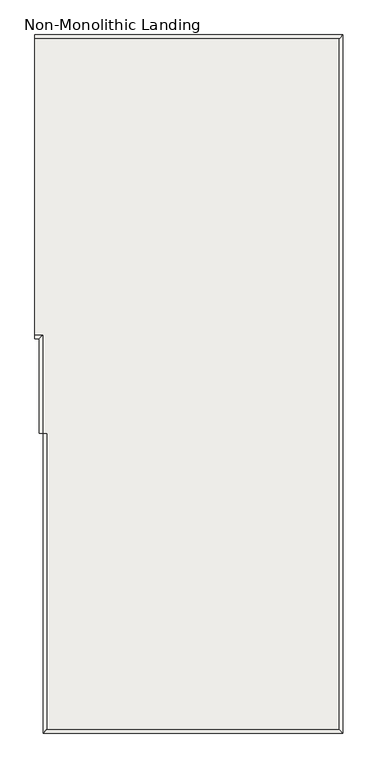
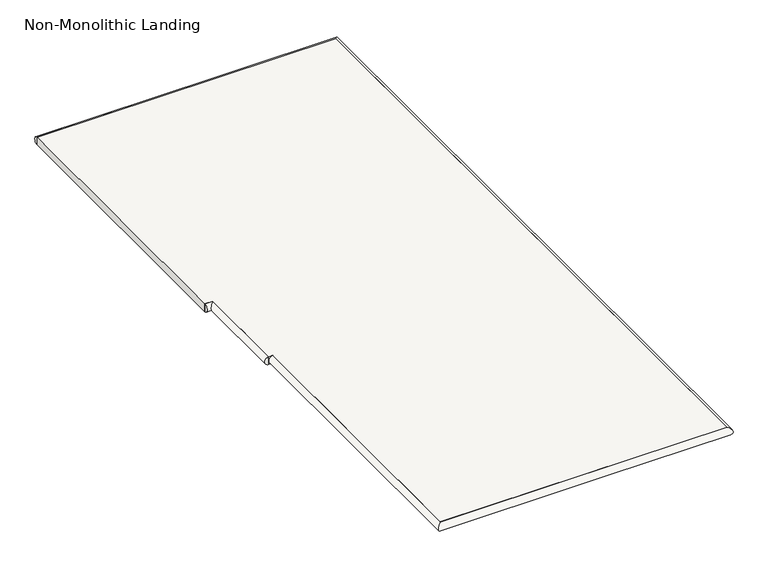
"""IFC4 building model written with IfcOpenShell, lengths in millimetres: slab geometry, Non-Monolithic Landing."""

from ifc_helpers import new_model, si_unit, frame, origin, place, context, project, spatial, circle_curve, ellipse_curve, faceted_brep, source, transform, mapped, element, save
from ifc_brep_helpers import plane_surface, cylinder_surface, advanced_brep


def non_monolithic_landing_834f4fe1(model_context):
    return source(origin(), model_context, "Body", "SolidModel", [
        faceted_brep([(-16004.0481446, -10369.6871906, 1524.0), (-15991.3481446, -10369.6871906, 1524.0), (-15991.3481446, -11284.0871906, 1524.0), (-15089.6481446, -11284.0871906, 1524.0), (-15089.6481446, -9150.4871906, 1524.0), (-16004.0481446, -9150.4871906, 1524.0), (-16029.4481446, -9150.4871906, 1524.0), (-16029.4481446, -10064.8871906, 1524.0), (-16004.0481446, -10064.8871906, 1524.0), (-16004.0481446, -10369.6871906, 1498.6), (-16004.0481446, -10064.8871906, 1498.6), (-16029.4481446, -10064.8871906, 1498.6), (-16029.4481446, -9150.4871906, 1498.6), (-16004.0481446, -9150.4871906, 1498.6), (-15089.6481446, -9150.4871906, 1498.6), (-15089.6481446, -11284.0871906, 1498.6), (-15991.3481446, -11284.0871906, 1498.6), (-15991.3481446, -10369.6871906, 1498.6)], [[[0, 1, 2, 3, 4, 5, 6, 7, 8]], [[9, 10, 11, 12, 13, 14, 15, 16, 17]], [[1, 0, 9, 17]], [[2, 1, 17, 16]], [[3, 2, 16, 15]], [[4, 3, 15, 14]], [[5, 4, 14, 13]], [[6, 5, 13, 12]], [[7, 6, 12, 11]], [[8, 7, 11, 10]], [[0, 8, 10, 9]]]),
        advanced_brep(
        [(-16029.4481446, -9150.4871906, 1524.0), (-16029.4481446, -9150.4871906, 1498.6), (-15089.6481446, -9150.4871906, 1524.0), (-15089.6481446, -9150.4871906, 1498.6), (-15089.6481446, -11284.0871906, 1524.0), (-15089.6481446, -11284.0871906, 1498.6), (-15991.3481446, -11284.0871906, 1524.0), (-15991.3481446, -11284.0871906, 1498.6), (-15991.3481446, -10369.6871906, 1524.0), (-15991.3481446, -10369.6871906, 1498.6)],
        [
            (0, 1, circle_curve(frame((-16029.4481446, -9150.4871906, 1511.3), z_axis=(-1.0, 0.0, 0.0), x_axis=(0.0, -1.0, 0.0)), 12.7)),
            (1, 0),
            (0, 2),
            (2, 3, ellipse_curve(frame((-15089.6481446, -9150.4871906, 1511.3), z_axis=(-0.7071067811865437, 0.7071067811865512, 0.0), x_axis=(-0.7071067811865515, -0.7071067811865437, 0.0)), 17.9605122, 12.7)),
            (3, 1),
            (3, 2),
            (2, 4),
            (4, 5, ellipse_curve(frame((-15089.6481446, -11284.0871906, 1511.3), z_axis=(0.70710678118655, 0.707106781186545, 0.0), x_axis=(-0.707106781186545, 0.7071067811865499, 0.0)), 17.9605122, 12.7)),
            (5, 3),
            (5, 4),
            (4, 6),
            (6, 7, ellipse_curve(frame((-15991.3481446, -11284.0871906, 1511.3), z_axis=(0.7071067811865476, -0.7071067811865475, 0.0), x_axis=(0.7071067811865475, 0.7071067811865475, 0.0)), 17.9605122, 12.7)),
            (7, 5),
            (7, 6),
            (8, 9),
            (9, 8, circle_curve(frame((-15991.3481446, -10369.6871906, 1511.3), z_axis=(0.0, 1.0, 0.0), x_axis=(1.0, 0.0, 0.0)), 12.7)),
            (6, 8),
            (9, 7),
        ],
        [
            plane_surface(frame((-16029.4481446, -9150.4871906, 1524.0), z_axis=(-1.0, 0.0, 0.0), x_axis=(0.0, -1.0, 0.0))),
            cylinder_surface(frame((-16029.4481446, -9150.4871906, 1511.3), z_axis=(-1.0, 0.0, 0.0), x_axis=(0.0, -1.0, 0.0)), 12.7),
            plane_surface(frame((-16029.4481446, -9150.4871906, 1498.6), z_axis=(0.0, -1.0, 0.0), x_axis=(1.0, 0.0, 0.0))),
            cylinder_surface(frame((-15089.6481446, -9150.4871906, 1511.3), z_axis=(0.0, 1.0, 0.0), x_axis=(-1.0, 0.0, 0.0)), 12.7),
            plane_surface(frame((-15089.6481446, -9150.4871906, 1498.6), z_axis=(-1.0, 0.0, 0.0), x_axis=(0.0, -1.0, 0.0))),
            cylinder_surface(frame((-15089.6481446, -11284.0871906, 1511.3), z_axis=(1.0, 0.0, 0.0), x_axis=(0.0, 1.0, 0.0)), 12.7),
            plane_surface(frame((-15089.6481446, -11284.0871906, 1498.6), z_axis=(0.0, 1.0, 0.0), x_axis=(-1.0, 0.0, 0.0))),
            plane_surface(frame((-16016.7481446, -10369.6871906, 1524.0), z_axis=(0.0, 1.0, 0.0), x_axis=(0.0, 0.0, 1.0))),
            cylinder_surface(frame((-15991.3481446, -11284.0871906, 1511.3), z_axis=(0.0, -1.0, 0.0), x_axis=(1.0, 0.0, 0.0)), 12.7),
            plane_surface(frame((-15991.3481446, -11284.0871906, 1498.6), z_axis=(1.0, 0.0, 0.0), x_axis=(0.0, 1.0, 0.0))),
        ],
        [
            (0, [[1, 2]]),
            (1, [[-1, 3, 4, 5]]),
            (2, [[-2, -5, 6, -3]]),
            (3, [[-4, 7, 8, 9]]),
            (4, [[-6, -9, 10, -7]]),
            (5, [[-8, 11, 12, 13]]),
            (6, [[-10, -13, 14, -11]]),
            (7, [[15, 16]]),
            (8, [[-12, 17, -16, 18]]),
            (9, [[-14, -18, -15, -17]]),
        ],
    ),
        advanced_brep(
        [(-16004.0481446, -10369.6871906, 1524.0), (-16004.0481446, -10369.6871906, 1498.6), (-16004.0481446, -10064.8871906, 1524.0), (-16004.0481446, -10064.8871906, 1498.6), (-16029.4481446, -10064.8871906, 1524.0), (-16029.4481446, -10064.8871906, 1498.6)],
        [
            (0, 1, circle_curve(frame((-16004.0481446, -10369.6871906, 1511.3), z_axis=(0.0, -1.0, 0.0), x_axis=(1.0, 0.0, 0.0)), 12.7)),
            (1, 0),
            (0, 2),
            (2, 3, ellipse_curve(frame((-16004.0481446, -10064.8871906, 1511.3), z_axis=(0.7071067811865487, -0.7071067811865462, 0.0), x_axis=(-0.707106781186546, -0.7071067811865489, 0.0)), 17.9605122, 12.7)),
            (3, 1),
            (3, 2),
            (4, 5),
            (5, 4, circle_curve(frame((-16029.4481446, -10064.8871906, 1511.3), z_axis=(-1.0, 0.0, 0.0), x_axis=(0.0, 1.0, 0.0)), 12.7)),
            (2, 4),
            (5, 3),
        ],
        [
            plane_surface(frame((-16029.4481446, -10369.6871906, 1524.0), z_axis=(0.0, -1.0, 0.0), x_axis=(0.0, 0.0, 1.0))),
            cylinder_surface(frame((-16004.0481446, -10369.6871906, 1511.3), z_axis=(0.0, -1.0, 0.0), x_axis=(1.0, 0.0, 0.0)), 12.7),
            plane_surface(frame((-16004.0481446, -10369.6871906, 1498.6), z_axis=(1.0, 0.0, 0.0), x_axis=(0.0, 1.0, 0.0))),
            plane_surface(frame((-16029.4481446, -10064.8871906, 1524.0), z_axis=(-1.0, 0.0, 0.0), x_axis=(0.0, -1.0, 0.0))),
            cylinder_surface(frame((-16004.0481446, -10064.8871906, 1511.3), z_axis=(1.0, 0.0, 0.0), x_axis=(0.0, 1.0, 0.0)), 12.7),
            plane_surface(frame((-16004.0481446, -10064.8871906, 1498.6), z_axis=(0.0, 1.0, 0.0), x_axis=(-1.0, 0.0, 0.0))),
        ],
        [
            (0, [[1, 2]]),
            (1, [[-1, 3, 4, 5]]),
            (2, [[-2, -5, 6, -3]]),
            (3, [[7, 8]]),
            (4, [[-4, 9, -8, 10]]),
            (5, [[-6, -10, -7, -9]]),
        ],
    ),
    ])


if __name__ == "__main__":
    model = new_model("IFC4")
    model_context = context("Model", 3, world=origin())
    ifc_project = project(units=[si_unit("LENGTHUNIT", "METRE", prefix="MILLI")], contexts=[model_context])
    site = spatial("IfcSite", under=ifc_project)
    building = spatial("IfcBuilding", under=site)
    placement = place(None, origin())
    non_monolithic_landing_shape = non_monolithic_landing_834f4fe1(model_context)
    element("IfcSlab", 1, ObjectType="Non-Monolithic Landing", at=placement, inside=building, context=model_context, shape_type="MappedRepresentation", body=[
        mapped(non_monolithic_landing_shape, transform((0.0, 0.0, 0.0), x_axis=(1.0, 0.0, 0.0), y_axis=(0.0, 1.0, 0.0), z_axis=(0.0, 0.0, 1.0))),
    ])
    save(model, "model.ifc")
